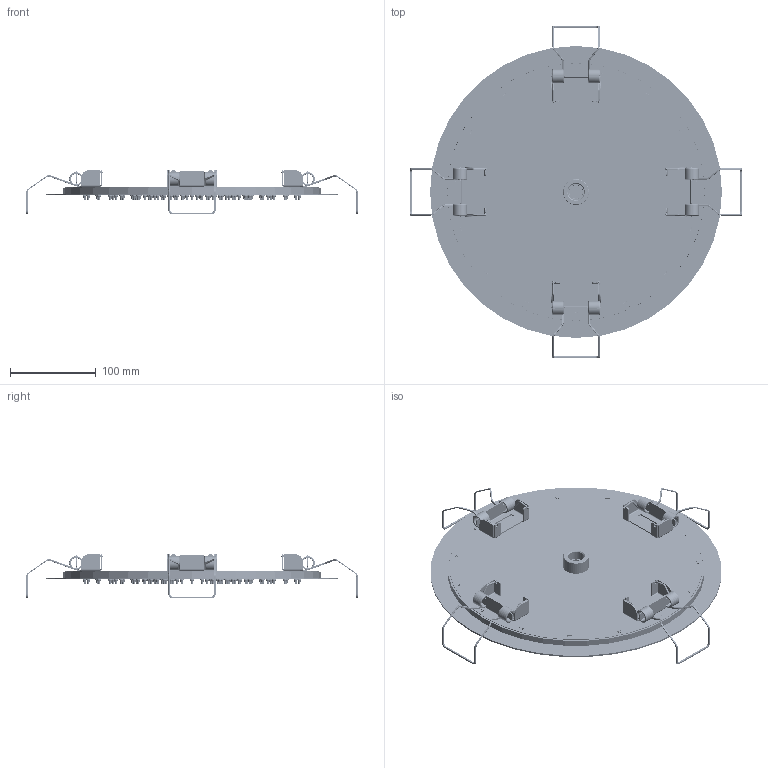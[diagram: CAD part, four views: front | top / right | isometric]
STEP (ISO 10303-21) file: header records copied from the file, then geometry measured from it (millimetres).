
FILE_DESCRIPTION((''),'2;1');
FILE_NAME('90904_SW0001','2026-03-05T14:58:07',('carloff'),(''),'CREO PARAMETRIC BY PTC INC, 2022014','CREO PARAMETRIC BY PTC INC, 2022014','');
FILE_SCHEMA(('CONFIG_CONTROL_DESIGN'));
Products named in the file (1): 90904_SW0001
Bounding box: 386.67 x 386.67 x 52.06 mm (x, y, z)
Volume: 430697.8 mm3; surface area: 359605.5 mm2
Topology: 1 solids, 1 shells, 5644 faces, 12588 edges, 7346 vertices
Faces by surface type: torus 2242, cylinder 1842, plane 886, cone 530, bspline 96, sphere 48
Entity records: 189027 total; most frequent: CARTESIAN_POINT 58629, DIRECTION 31418, ORIENTED_EDGE 25080, AXIS2_PLACEMENT_3D 13998, EDGE_CURVE 12540, CIRCLE 8450, VERTEX_POINT 7346, EDGE_LOOP 6368
